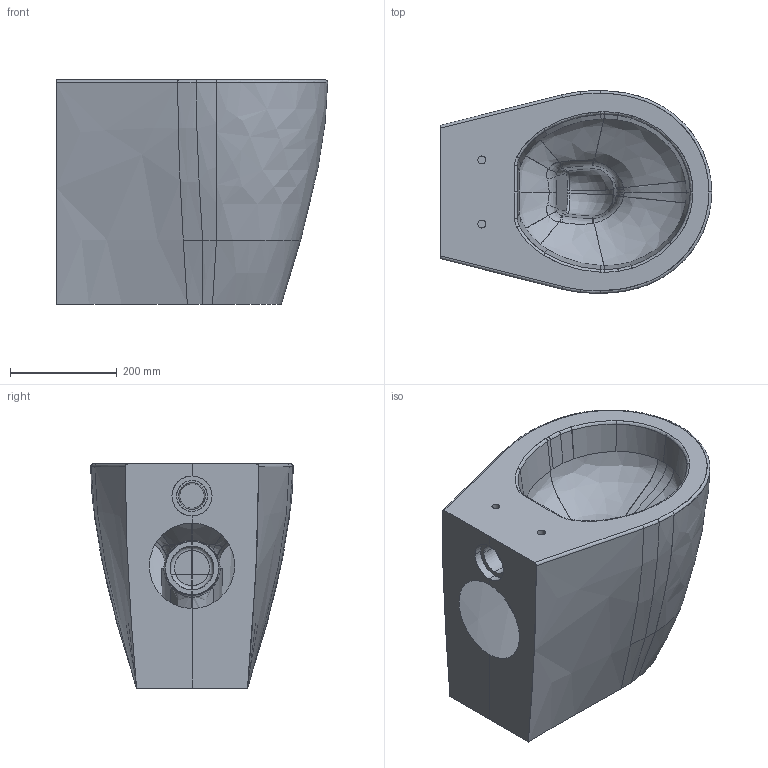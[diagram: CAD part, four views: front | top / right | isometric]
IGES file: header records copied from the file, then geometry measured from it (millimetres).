
Start section: START RECORD GO HERE.
Global section: file name: 9909_3D.igs; native system: DASSAULT SYSTEMES CATIA V5 R19 - www.3ds.com; preprocessor: CATIA Version 5 Release 19 SP 5 ; author: Luca; organization: DESKTOP-V7SON24; date: 20201127.085120; units: millimetre
Bounding box: 508.52 x 380.13 x 420 mm (x, y, z)
Surface area: 1047860.5 mm2 (no closed solid volume)
Topology: 0 solids, 0 shells, 177 faces, 948 edges, 946 vertices
Faces by surface type: bspline 140, plane 19, revolution 18
